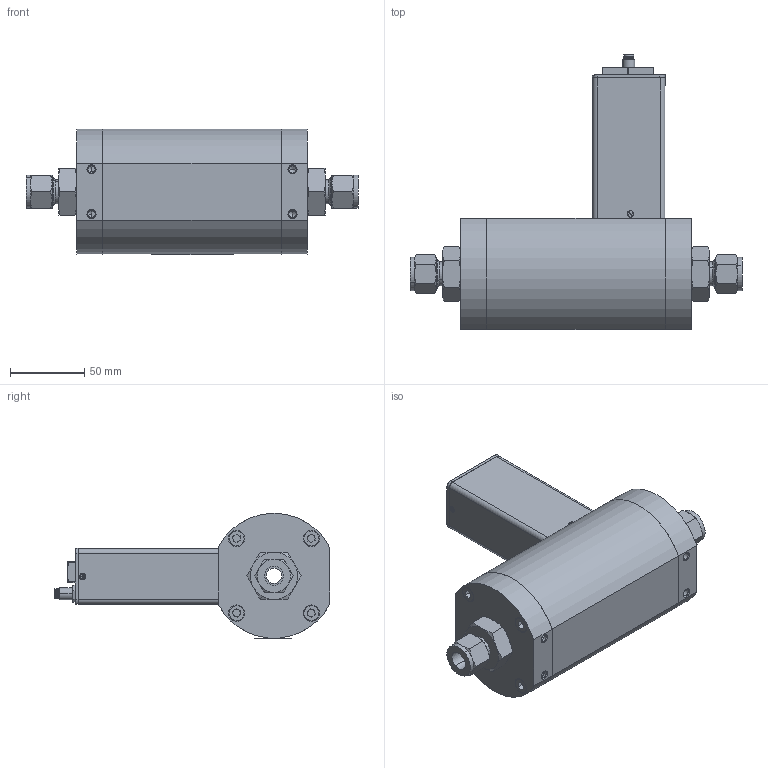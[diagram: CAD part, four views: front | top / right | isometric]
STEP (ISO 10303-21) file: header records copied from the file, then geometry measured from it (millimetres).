
FILE_DESCRIPTION (( 'STEP AP203' ), '1' );
FILE_NAME ('SLA5863-7-2D-1-A-REVB.STEP', '2024-08-20T18:15:33', ( '' ), ( '' ), 'SwSTEP 2.0', 'SolidWorks 2023', '' );
FILE_SCHEMA (( 'CONFIG_CONTROL_DESIGN' ));
Length unit declared in the file: inch
Products named in the file (1): SLA5863-7-2D-1-A-REVB
Bounding box: 223.07 x 184.93 x 84.02 mm (x, y, z)
Volume: 257138.4 mm3; surface area: 167627.8 mm2
Topology: 41 solids, 41 shells, 1915 faces, 4977 edges, 3208 vertices
Faces by surface type: plane 1205, cylinder 399, cone 218, bspline 93
Entity records: 60949 total; most frequent: CARTESIAN_POINT 14192, ORIENTED_EDGE 9910, DIRECTION 9247, EDGE_CURVE 4955, LINE 3525, VECTOR 3525, VERTEX_POINT 3208, AXIS2_PLACEMENT_3D 2861
